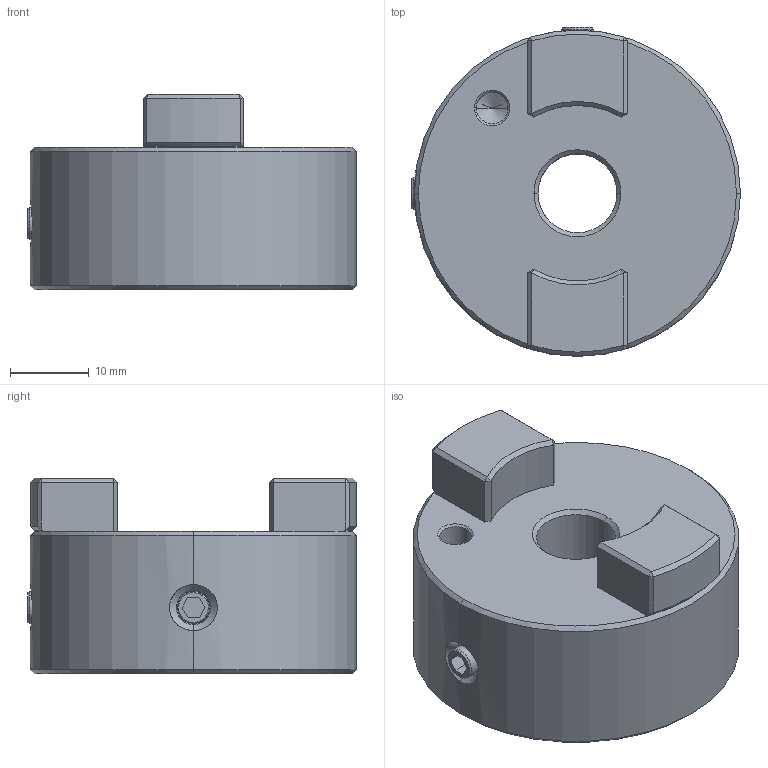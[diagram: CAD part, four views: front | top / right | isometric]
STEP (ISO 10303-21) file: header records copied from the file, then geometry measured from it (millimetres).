
FILE_DESCRIPTION((''),'2;1');
FILE_NAME('MOST41-10-A','2016-09-09T',('SYSTEM'),(''),'PRO/ENGINEER BY PARAMETRIC TECHNOLOGY CORPORATION, 2015110','PRO/ENGINEER BY PARAMETRIC TECHNOLOGY CORPORATION, 2015110','');
FILE_SCHEMA(('AUTOMOTIVE_DESIGN { 1 0 10303 214 1 1 1 1 }'));
Length unit declared in the file: millimetre
Products named in the file (1): MOST41-10-A
Bounding box: 41.64 x 41.64 x 24.77 mm (x, y, z)
Volume: 377.4 mm3; surface area: 6983.7 mm2
Topology: 2 solids, 5 shells, 96 faces, 233 edges, 142 vertices
Faces by surface type: plane 46, cone 26, cylinder 20, bspline 4
Entity records: 3895 total; most frequent: CARTESIAN_POINT 1001, ORIENTED_EDGE 435, DIRECTION 434, EDGE_CURVE 231, AXIS2_PLACEMENT_3D 149, VERTEX_POINT 142, VECTOR 136, LINE 136
